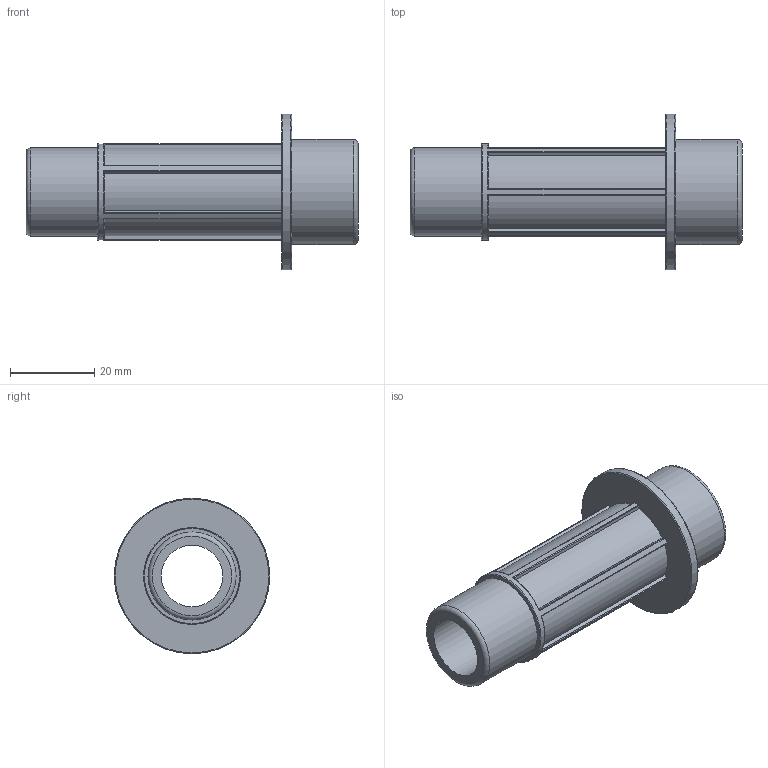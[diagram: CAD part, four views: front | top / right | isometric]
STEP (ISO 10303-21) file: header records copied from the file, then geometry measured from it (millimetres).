
FILE_DESCRIPTION(/* description */ ('PLASSON THREADED MALE ADAPTOR 25-1/2"'),/* implementation_level */ '2;1');
FILE_NAME(/* name */ 'C:\Dropbox\KIMPROJECTS-Inventor\99-16-3568-Processing\Silver+MF ISRAEL\078901\078901025005.ipt.stp',/* time_stamp */ '2018-04-09T13:01:51+03:00',/* author */ ('KIM'),/* organization */ (''),/* preprocessor_version */ 'ST-DEVELOPER v15.6',/* originating_system */ 'Autodesk Inventor 2015',/* authorisation */ '');
FILE_SCHEMA (('AUTOMOTIVE_DESIGN { 1 0 10303 214 3 1 1 }'));
Length unit declared in the file: millimetre
Products named in the file (1): 078901025005
Bounding box: 79 x 37 x 37 mm (x, y, z)
Volume: 18459.4 mm3; surface area: 11502.1 mm2
Topology: 1 solids, 1 shells, 57 faces, 151 edges, 99 vertices
Faces by surface type: cylinder 23, plane 23, torus 11
Full cylindrical faces by diameter (mm): 14.669 x1, 20.955 x1, 23.05 x1, 25 x1, 37 x1
Entity records: 1894 total; most frequent: CARTESIAN_POINT 488, DIRECTION 288, ORIENTED_EDGE 280, EDGE_CURVE 140, AXIS2_PLACEMENT_3D 114, VERTEX_POINT 98, EDGE_LOOP 72, LINE 60
